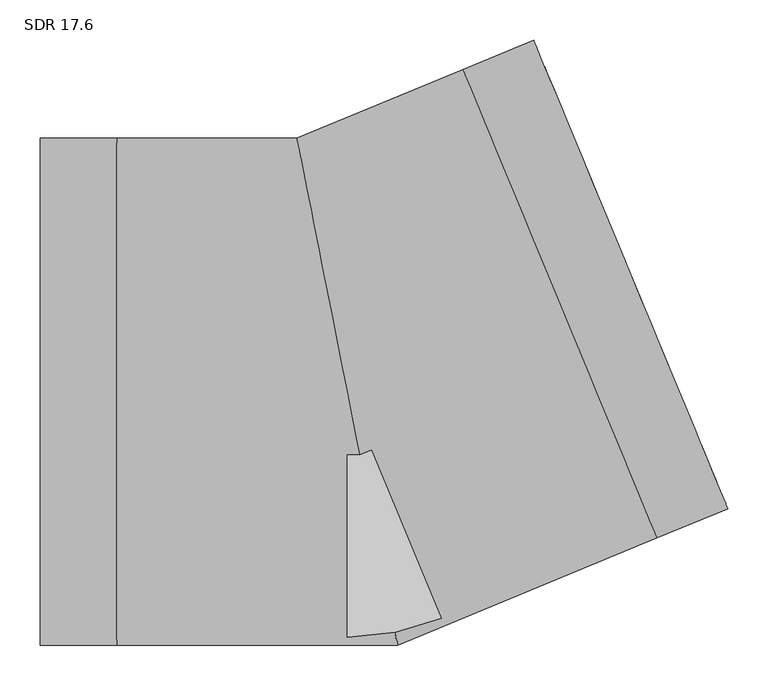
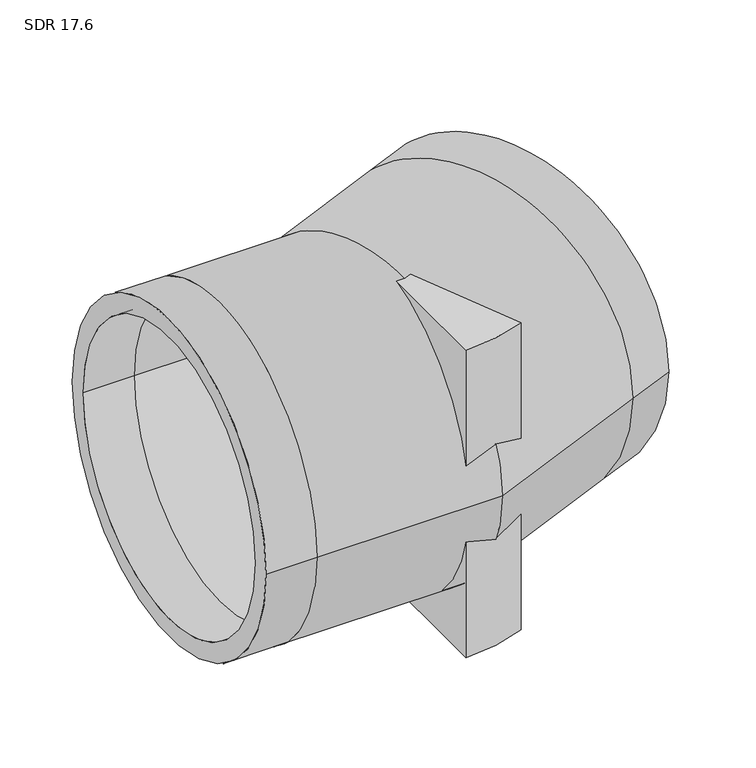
"""IFC4 building model written with IfcOpenShell, lengths in millimetres: pipe fitting geometry, Aquatherm - Elbow Blue BW Segmented : SDR 17.6."""

import ifcopenshell
import ifcopenshell.guid

model = None  # the IFC model being written
_history = None  # IfcOwnerHistory: only IFC2X3 demands one
_inside = {}  # id of a spatial element -> (the spatial element, [elements in it])
_under = {}  # id of a project, library or spatial element -> (it, [spatial elements below it])
_declared = {}  # id of a project -> (the project, [libraries it declares])
_typed = {}  # id of a type object -> (the type object, [elements of that type])
_made_of = {}  # id of a material, layer set ... -> (it, [elements and type objects made of it])


def new_model(schema):
    """Start an empty IFC model of exactly this schema.

    Asked for "IFC4X3", IfcOpenShell would pick the latest addendum, in which some entities
    have other attributes; the version numbers below select the first issue.
    IFC2X3 requires an IfcOwnerHistory on every rooted entity: one is made here for all.
    """
    global model, _history
    if schema == "IFC4X3":
        model = ifcopenshell.file(schema_version=(4, 3, 0, 0))
    else:
        model = ifcopenshell.file(schema=schema)
    _inside.clear()
    _under.clear()
    _declared.clear()
    _typed.clear()
    _made_of.clear()
    _history = None
    if model.schema == "IFC2X3":
        org = make("IfcOrganization", Name="unknown")
        user = make(
            "IfcPersonAndOrganization",
            ThePerson=make("IfcPerson", FamilyName="unknown"),
            TheOrganization=org,
        )
        app = make(
            "IfcApplication",
            ApplicationDeveloper=org,
            Version="unknown",
            ApplicationFullName="unknown",
            ApplicationIdentifier="unknown",
        )
        _history = make(
            "IfcOwnerHistory",
            OwningUser=user,
            OwningApplication=app,
            ChangeAction="ADDED",
            CreationDate=0,
        )
    return model


def make(cls, **values):
    """One entity of the class cls with the attributes given. An attribute that is None is left unset."""
    return model.create_entity(
        cls, **{name: value for name, value in values.items() if value is not None}
    )


def rooted(cls, **values):
    """An entity with a GlobalId (a new one), such as an element, a storey or a relation."""
    return make(cls, GlobalId=ifcopenshell.guid.new(), OwnerHistory=_history, **values)


def si_unit(unit_type, name, prefix=None):
    """IfcSIUnit, for example si_unit("LENGTHUNIT", "METRE", prefix="MILLI")."""
    return make("IfcSIUnit", UnitType=unit_type, Prefix=prefix, Name=name)


def assignment(units):
    """IfcUnitAssignment: the units of a project."""
    return None if units is None else make("IfcUnitAssignment", Units=units)


def point(xyz):
    """IfcCartesianPoint."""
    return None if xyz is None else make("IfcCartesianPoint", Coordinates=xyz)


def direction(xyz):
    """IfcDirection."""
    return None if xyz is None else make("IfcDirection", DirectionRatios=xyz)


def frame(location, z_axis=None, x_axis=None):
    """IfcAxis2Placement3D, a coordinate frame: its origin and axes. An axis left out is left unset."""
    return make(
        "IfcAxis2Placement3D",
        Location=point(location),
        Axis=direction(z_axis),
        RefDirection=direction(x_axis),
    )


def frame_2d(location, x_axis=None):
    """IfcAxis2Placement2D, a coordinate frame in the plane: its origin and x axis."""
    return make(
        "IfcAxis2Placement2D", Location=point(location), RefDirection=direction(x_axis)
    )


def origin():
    """The frame at (0, 0, 0) with its axes left unset."""
    return frame((0.0, 0.0, 0.0))


def origin_with_axes():
    """The frame at (0, 0, 0) with the z axis (0, 0, 1) and the x axis (1, 0, 0) written out."""
    return frame((0.0, 0.0, 0.0), z_axis=(0.0, 0.0, 1.0), x_axis=(1.0, 0.0, 0.0))


def origin_2d():
    """The frame at (0, 0) in the plane with its x axis left unset."""
    return frame_2d((0.0, 0.0))


def place(relative_to, where):
    """IfcLocalPlacement: puts the frame where relative to a parent placement (None: the world)."""
    return make(
        "IfcLocalPlacement", PlacementRelTo=relative_to, RelativePlacement=where
    )


def context(
    kind, dimensions, precision=None, world=None, true_north=None, identifier=None
):
    """IfcGeometricRepresentationContext, for example the 3D "Model" context."""
    return make(
        "IfcGeometricRepresentationContext",
        ContextIdentifier=identifier,
        ContextType=kind,
        CoordinateSpaceDimension=dimensions,
        Precision=precision,
        WorldCoordinateSystem=world,
        TrueNorth=true_north,
    )


def project(units=None, contexts=None):
    """IfcProject with its units and contexts."""
    return rooted(
        "IfcProject",
        Name="project",
        RepresentationContexts=contexts,
        UnitsInContext=assignment(units),
    )


def spatial(cls, under=None, at=None, **own):
    """A site, building, storey or space (cls), placed at a placement, below another one or the project."""
    s = rooted(cls, ObjectPlacement=at, **own)
    if under is not None:
        _under.setdefault(under.id(), (under, []))[1].append(s)
    return s


def polyline(points):
    """IfcPolyline through the points."""
    return make("IfcPolyline", Points=[point(p) for p in points])


def circle_curve(where, radius):
    """IfcCircle in the frame where."""
    return make("IfcCircle", Position=where, Radius=radius)


def ellipse_curve(where, semi_axis1, semi_axis2):
    """IfcEllipse in the frame where."""
    return make(
        "IfcEllipse", Position=where, SemiAxis1=semi_axis1, SemiAxis2=semi_axis2
    )


def trimmed(basis, trim1, trim2, sense, master):
    """IfcTrimmedCurve: the piece of a basis curve between two trims."""
    return make(
        "IfcTrimmedCurve",
        BasisCurve=basis,
        Trim1=trim1,
        Trim2=trim2,
        SenseAgreement=sense,
        MasterRepresentation=master,
    )


def segment(curve, same_sense, transition):
    """IfcCompositeCurveSegment."""
    return make(
        "IfcCompositeCurveSegment",
        Transition=transition,
        SameSense=same_sense,
        ParentCurve=curve,
    )


def composite_curve(segments, self_intersect=None):
    """IfcCompositeCurve: segments joined end to end."""
    return make("IfcCompositeCurve", Segments=segments, SelfIntersect=self_intersect)


def outline(outer, holes=None, kind="AREA"):
    """IfcArbitraryClosedProfileDef: a profile drawn as a closed curve; with holes, ...WithVoids."""
    if holes is None:
        return make("IfcArbitraryClosedProfileDef", ProfileType=kind, OuterCurve=outer)
    return make(
        "IfcArbitraryProfileDefWithVoids",
        ProfileType=kind,
        OuterCurve=outer,
        InnerCurves=holes,
    )


def extrude(swept, where, along, depth):
    """IfcExtrudedAreaSolid: the profile swept, set in the frame where, extruded along a direction by depth."""
    return make(
        "IfcExtrudedAreaSolid",
        SweptArea=swept,
        Position=where,
        ExtrudedDirection=direction(along),
        Depth=depth,
    )


def shape(context_of_items, identifier, shape_type, items):
    """IfcShapeRepresentation: the items that make up one representation, for example the "Body"."""
    return make(
        "IfcShapeRepresentation",
        ContextOfItems=context_of_items,
        RepresentationIdentifier=identifier,
        RepresentationType=shape_type,
        Items=items,
    )


def source(mapping_origin, context_of_items, identifier, shape_type, items):
    """IfcRepresentationMap: a shape defined once, which mapped items show again and again."""
    return make(
        "IfcRepresentationMap",
        MappingOrigin=mapping_origin,
        MappedRepresentation=shape(context_of_items, identifier, shape_type, items),
    )


def transform(
    local_origin,
    x_axis=None,
    y_axis=None,
    z_axis=None,
    scale=None,
    scale2=None,
    scale3=None,
    uniform=True,
):
    """IfcCartesianTransformationOperator3D, or its non-uniform kind. x_axis, y_axis, z_axis: its Axis1, 2, 3."""
    if uniform:
        return make(
            "IfcCartesianTransformationOperator3D",
            Axis1=direction(x_axis),
            Axis2=direction(y_axis),
            LocalOrigin=point(local_origin),
            Scale=scale,
            Axis3=direction(z_axis),
        )
    return make(
        "IfcCartesianTransformationOperator3DnonUniform",
        Axis1=direction(x_axis),
        Axis2=direction(y_axis),
        LocalOrigin=point(local_origin),
        Scale=scale,
        Axis3=direction(z_axis),
        Scale2=scale2,
        Scale3=scale3,
    )


def mapped(mapping_source, mapping_target):
    """IfcMappedItem: shows the shape of a source again, moved by a transform."""
    return make(
        "IfcMappedItem", MappingSource=mapping_source, MappingTarget=mapping_target
    )


def made_of(thing, what):
    """Note that an element or type object is made of a material, layer set ...; save() writes the relation."""
    if what is not None:
        _made_of.setdefault(what.id(), (what, []))[1].append(thing)
    return thing


def element(
    cls,
    number,
    at=None,
    inside=None,
    cuts=None,
    type_object=None,
    material=None,
    context=None,
    identifier="Body",
    shape_type=None,
    held_by="IfcProductDefinitionShape",
    body=None,
    shapes=None,
    **own,
):
    """One element of the class cls, such as IfcWall. Its Tag is "e" and its number.

    at: its placement. inside: the storey or other place that contains it. cuts: it is an
    opening in that element (IfcRelVoidsElement). A single representation is given by context,
    identifier, shape_type and body (its items); several are given by shapes. held_by: the class
    of the entity that holds the representations. save() writes the other relations.
    """
    e = rooted(cls, Tag="e%d" % number, ObjectPlacement=at, **own)
    if body is not None:
        shapes = [shape(context, identifier, shape_type, body)]
    if shapes is not None:
        e.Representation = make(held_by, Representations=shapes)
    if inside is not None:
        _inside.setdefault(inside.id(), (inside, []))[1].append(e)
    if cuts is not None:
        rooted(
            "IfcRelVoidsElement", RelatingBuildingElement=cuts, RelatedOpeningElement=e
        )
    if type_object is not None:
        _typed.setdefault(type_object.id(), (type_object, []))[1].append(e)
    return made_of(e, material)


def aggregate(whole, parts):
    """IfcRelAggregates: a whole, such as a stair, and the parts it consists of."""
    return rooted("IfcRelAggregates", RelatingObject=whole, RelatedObjects=parts)


def save(model, path):
    """Write the relations noted so far, then the file.

    IfcRelAggregates (storeys below a building ...), IfcRelContainedInSpatialStructure (elements
    in a storey), IfcRelDefinesByType, IfcRelAssociatesMaterial and IfcRelDeclares: one each for
    every whole, place, type object, material and project.
    """
    for whole, parts in _under.values():
        aggregate(whole, parts)
    for where, things in _inside.values():
        rooted(
            "IfcRelContainedInSpatialStructure",
            RelatedElements=things,
            RelatingStructure=where,
        )
    for kind, things in _typed.values():
        rooted("IfcRelDefinesByType", RelatedObjects=things, RelatingType=kind)
    for what, things in _made_of.values():
        rooted("IfcRelAssociatesMaterial", RelatedObjects=things, RelatingMaterial=what)
    for by, libraries in _declared.values():
        rooted("IfcRelDeclares", RelatingContext=by, RelatedDefinitions=libraries)
    model.write(path)


def plane_surface(at):
    """IfcPlane: the flat surface through the origin of the frame at, square to its z axis."""
    return make("IfcPlane", Position=at)


def cylinder_surface(at, radius):
    """IfcCylindricalSurface: all points at the distance radius from the z axis of the frame at."""
    return make("IfcCylindricalSurface", Position=at, Radius=radius)


def revolved_surface(curve, axis_point, axis_direction):
    """IfcSurfaceOfRevolution: the curve turned about the line through axis_point along axis_direction."""
    return make(
        "IfcSurfaceOfRevolution",
        SweptCurve=make("IfcArbitraryOpenProfileDef", ProfileType="CURVE", Curve=curve),
        AxisPosition=make("IfcAxis1Placement", Location=point(axis_point), Axis=direction(axis_direction)),
    )


def advanced_brep(points, edges, surfaces, faces):
    """IfcAdvancedBrep: a solid bounded by faces that lie on surfaces and meet in shared edges.

    An edge is (start, end): straight between two places in points (the first is 0);
    or (start, end, curve); or (start, end, curve, False) where it runs against its curve.
    A face is (place in surfaces, loops), or (place, loops, False) where it looks against
    its surface's normal. A loop lists edges by number (the first is 1), with a minus sign
    where the edge is run from its end to its start. The first loop is the outer one.
    """
    corners = [point(p) for p in points]
    vertices = [make("IfcVertexPoint", VertexGeometry=c) for c in corners]
    made = []
    for start, end, *more in edges:
        made.append(
            make(
                "IfcEdgeCurve",
                EdgeStart=vertices[start],
                EdgeEnd=vertices[end],
                EdgeGeometry=more[0] if more else make("IfcPolyline", Points=[corners[start], corners[end]]),
                SameSense=more[1] if len(more) > 1 else True,
            )
        )
    hull = []
    for where, loops, *sense in faces:
        bounds = []
        for j, loop in enumerate(loops):
            ring = [make("IfcOrientedEdge", EdgeElement=made[abs(k) - 1], Orientation=k > 0) for k in loop]
            bounds.append(
                make(
                    "IfcFaceOuterBound" if j == 0 else "IfcFaceBound",
                    Bound=make("IfcEdgeLoop", EdgeList=ring),
                    Orientation=True,
                )
            )
        hull.append(make("IfcAdvancedFace", Bounds=bounds, FaceSurface=surfaces[where], SameSense=sense[0] if sense else True))
    return make("IfcAdvancedBrep", Outer=make("IfcClosedShell", CfsFaces=hull))


def sdr_17_6_21f98ab7(model_context):
    return source(origin(), model_context, "Body", "SolidModel", [
        extrude(outline(composite_curve([segment(polyline([(0.0, -304.8), (0.0, 0.0), (116.6419102, -281.5984815)]), True, "CONTINUOUS"), segment(trimmed(circle_curve(origin_2d(), 304.8), [point((116.6419102, -281.5984815))], [point((0.0, -304.8))], False, "CARTESIAN"), True, "CONTINUOUS")], self_intersect=False)), frame((0.0, 0.0, -304.8), z_axis=(0.0, 0.0, 1.0), x_axis=(1.0, 0.0, 0.0)), (0.0, 0.0, 1.0), 304.8),
        extrude(outline(composite_curve([segment(trimmed(circle_curve(origin_2d(), 304.8), [point((116.6419102, -281.5984815))], [point((0.0, -304.8))], False, "CARTESIAN"), True, "CONTINUOUS"), segment(polyline([(0.0, -304.8), (0.0, 0.0), (116.6419102, -281.5984815)]), True, "CONTINUOUS")], self_intersect=False)), origin_with_axes(), (0.0, 0.0, 1.0), 304.8),
        advanced_brep(
        [(-381.0, -314.96, 0.0), (-381.0, 314.96, 0.0), (-381.0, -279.1722681, 0.0), (-381.0, 279.1722681, 0.0), (472.5280757, -145.1827098, 0.0), (231.468128, 436.7874853, 0.0), (458.8327037, -112.1191568, 0.0), (245.1635001, 403.7239323, 0.0), (-285.75, -314.96, 0.0), (-285.75, 314.96, 0.0), (-285.75, -279.1722681, 0.0), (-285.75, 279.1722681, 0.0), (62.6494392, -314.96, 0.0), (-62.6494392, 314.96, 0.0), (55.5308168, -279.1722681, 0.0), (-55.5308168, 279.1722681, 0.0), (384.5285503, -181.6333068, 0.0), (143.4686026, 400.3368884, 0.0), (370.8331782, -148.5697537, 0.0), (157.1639746, 367.2733353, 0.0)],
        [
            (0, 1, circle_curve(frame((-381.0, 0.0, 0.0), z_axis=(-1.0, 0.0, 0.0), x_axis=(0.0, 1.0, 0.0)), 314.96)),
            (1, 0, circle_curve(frame((-381.0, 0.0, 0.0), z_axis=(-1.0, 0.0, 0.0), x_axis=(0.0, 1.0, 0.0)), 314.96)),
            (2, 3, circle_curve(frame((-381.0, 0.0, 0.0), z_axis=(1.0, 0.0, 0.0), x_axis=(0.0, 1.0, 0.0)), 279.1722681)),
            (3, 2, circle_curve(frame((-381.0, 0.0, 0.0), z_axis=(1.0, 0.0, 0.0), x_axis=(0.0, 1.0, 0.0)), 279.1722681)),
            (4, 5, circle_curve(frame((351.9981019, 145.8023877, 0.0), z_axis=(0.9238795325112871, 0.38268343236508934, 0.0), x_axis=(-0.38268343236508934, 0.9238795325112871, 0.0)), 314.96)),
            (5, 4, circle_curve(frame((351.9981019, 145.8023877, 0.0), z_axis=(0.9238795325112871, 0.38268343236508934, 0.0), x_axis=(-0.38268343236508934, 0.9238795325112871, 0.0)), 314.96)),
            (6, 7, circle_curve(frame((351.9981019, 145.8023877, 0.0), z_axis=(-0.9238795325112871, -0.38268343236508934, 0.0), x_axis=(-0.38268343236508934, 0.9238795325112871, 0.0)), 279.1722681)),
            (7, 6, circle_curve(frame((351.9981019, 145.8023877, 0.0), z_axis=(-0.9238795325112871, -0.38268343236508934, 0.0), x_axis=(-0.38268343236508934, 0.9238795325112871, 0.0)), 279.1722681)),
            (0, 8),
            (8, 9, circle_curve(frame((-285.75, 0.0, 0.0), z_axis=(-1.0, 0.0, 0.0), x_axis=(0.0, 1.0, 0.0)), 314.96)),
            (9, 1),
            (9, 8, circle_curve(frame((-285.75, 0.0, 0.0), z_axis=(-1.0, 0.0, 0.0), x_axis=(0.0, 1.0, 0.0)), 314.96)),
            (2, 10),
            (10, 11, circle_curve(frame((-285.75, 0.0, 0.0), z_axis=(1.0, 0.0, 0.0), x_axis=(0.0, 1.0, 0.0)), 279.1722681)),
            (11, 3),
            (11, 10, circle_curve(frame((-285.75, 0.0, 0.0), z_axis=(1.0, 0.0, 0.0), x_axis=(0.0, 1.0, 0.0)), 279.1722681)),
            (8, 12),
            (12, 13, ellipse_curve(frame((0.0, 0.0, 0.0), z_axis=(-0.9807852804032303, -0.19509032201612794, 0.0), x_axis=(-0.19509032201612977, 0.9807852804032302, 0.0)), 321.1304312, 314.96)),
            (13, 9),
            (13, 12, ellipse_curve(frame((0.0, 0.0, 0.0), z_axis=(-0.9807852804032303, -0.19509032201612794, 0.0), x_axis=(-0.19509032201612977, 0.9807852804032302, 0.0)), 321.1304312, 314.96)),
            (10, 14),
            (14, 15, ellipse_curve(frame((0.0, 0.0, 0.0), z_axis=(0.9807852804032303, 0.19509032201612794, 0.0), x_axis=(0.19509032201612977, -0.9807852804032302, 0.0)), 284.6415762, 279.1722681)),
            (15, 11),
            (15, 14, ellipse_curve(frame((0.0, 0.0, 0.0), z_axis=(0.9807852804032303, 0.19509032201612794, 0.0), x_axis=(0.19509032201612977, -0.9807852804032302, 0.0)), 284.6415762, 279.1722681)),
            (12, 16),
            (16, 17, circle_curve(frame((263.9985764, 109.3517908, 0.0), z_axis=(-0.9238795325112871, -0.3826834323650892, 0.0), x_axis=(-0.3826834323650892, 0.9238795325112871, 0.0)), 314.96)),
            (17, 13),
            (17, 16, circle_curve(frame((263.9985764, 109.3517908, 0.0), z_axis=(-0.9238795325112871, -0.3826834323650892, 0.0), x_axis=(-0.3826834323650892, 0.9238795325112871, 0.0)), 314.96)),
            (14, 18),
            (18, 19, circle_curve(frame((263.9985764, 109.3517908, 0.0), z_axis=(0.9238795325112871, 0.3826834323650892, 0.0), x_axis=(-0.3826834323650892, 0.9238795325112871, 0.0)), 279.1722681)),
            (19, 15),
            (19, 18, circle_curve(frame((263.9985764, 109.3517908, 0.0), z_axis=(0.9238795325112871, 0.3826834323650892, 0.0), x_axis=(-0.3826834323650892, 0.9238795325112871, 0.0)), 279.1722681)),
            (16, 4),
            (5, 17),
            (18, 6),
            (7, 19),
        ],
        [
            plane_surface(frame((-381.0, 0.0, 0.0), z_axis=(-1.0, 0.0, 0.0), x_axis=(0.0, 0.0, 1.0))),
            plane_surface(frame((351.9981019, 145.8023877, 0.0), z_axis=(0.923879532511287, 0.3826834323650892, 0.0), x_axis=(0.0, 0.0, 1.0))),
            cylinder_surface(frame((-381.0, 0.0, 0.0), z_axis=(-1.0, 0.0, 0.0), x_axis=(0.0, 1.0, 0.0)), 314.96),
            revolved_surface(polyline([(-285.75, 279.1722681, 0.0), (-381.0, 279.1722681, 0.0)]), (-381.0, 0.0, 0.0), (1.0, 0.0, 0.0)),
            cylinder_surface(frame((-285.75, 0.0, 0.0), z_axis=(-1.0, 0.0, 0.0), x_axis=(0.0, 1.0, 0.0)), 314.96),
            revolved_surface(polyline([(55.530816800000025, 279.1722681, 0.0), (-285.75, 279.1722681, 0.0)]), (-285.75, 0.0, 0.0), (1.0, 0.0, 0.0)),
            cylinder_surface(frame((0.0, 0.0, 0.0), z_axis=(-0.9238795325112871, -0.3826834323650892, 0.0), x_axis=(-0.3826834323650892, 0.9238795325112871, 0.0)), 314.96),
            revolved_surface(polyline([(157.16397465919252, 367.2733353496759, 0.0), (-158.13838680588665, 236.67082098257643, 0.0)]), (0.0, 0.0, 0.0), (0.9238795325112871, 0.3826834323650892, 0.0)),
            cylinder_surface(frame((263.9985764, 109.3517908, 0.0), z_axis=(-0.9238795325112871, -0.38268343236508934, 0.0), x_axis=(-0.38268343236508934, 0.9238795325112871, 0.0)), 314.96),
            revolved_surface(polyline([(245.16350014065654, 403.72393229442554, 0.0), (157.16397458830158, 367.27333532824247, 0.0)]), (263.9985764, 109.3517908, 0.0), (0.9238795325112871, 0.38268343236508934, 0.0)),
        ],
        [
            (0, [[1, 2], [3, 4]]),
            (1, [[5, 6], [7, 8]]),
            (2, [[-1, 9, 10, 11]]),
            (2, [[-2, -11, 12, -9]]),
            (3, [[-3, 13, 14, 15]]),
            (3, [[-4, -15, 16, -13]]),
            (4, [[-10, 17, 18, 19]]),
            (4, [[-12, -19, 20, -17]]),
            (5, [[-14, 21, 22, 23]]),
            (5, [[-16, -23, 24, -21]]),
            (6, [[-18, 25, 26, 27]]),
            (6, [[-20, -27, 28, -25]]),
            (7, [[-22, 29, 30, 31]]),
            (7, [[-24, -31, 32, -29]]),
            (8, [[-26, 33, -6, 34]]),
            (8, [[-28, -34, -5, -33]]),
            (9, [[-30, 35, -8, 36]]),
            (9, [[-32, -36, -7, -35]]),
        ],
    ),
    ])


if __name__ == "__main__":
    model = new_model("IFC4")
    model_context = context("Model", 3, world=origin())
    ifc_project = project(units=[si_unit("LENGTHUNIT", "METRE", prefix="MILLI")], contexts=[model_context])
    site = spatial("IfcSite", under=ifc_project)
    building = spatial("IfcBuilding", under=site)
    placement = place(None, origin())
    sdr_17_6_shape = sdr_17_6_21f98ab7(model_context)
    element("IfcPipeFitting", 1, ObjectType="Aquatherm - Elbow Blue BW Segmented : SDR 17.6", at=placement, inside=building, context=model_context, shape_type="MappedRepresentation", body=[
        mapped(sdr_17_6_shape, transform((0.0, 0.0, 0.0), x_axis=(1.0, 0.0, 0.0), y_axis=(0.0, 1.0, 0.0), z_axis=(0.0, 0.0, 1.0))),
    ])
    save(model, "model.ifc")
